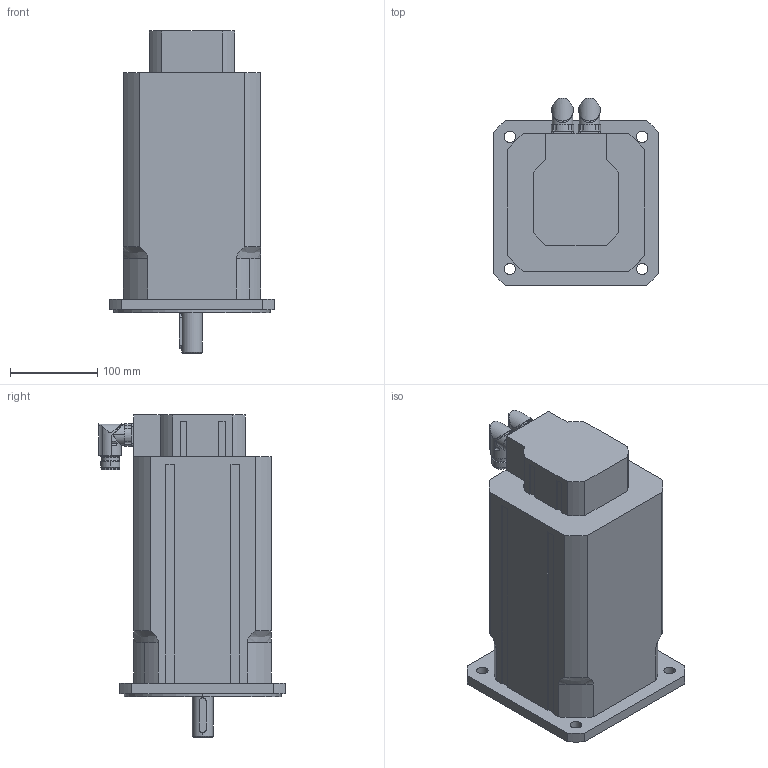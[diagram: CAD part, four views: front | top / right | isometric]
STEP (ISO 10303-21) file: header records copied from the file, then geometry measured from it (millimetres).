
FILE_DESCRIPTION(('STEP AP203'),'2;1');
FILE_NAME('MT6-2900_X.stp','2006-08-28T20:58:33',(''),(''),'2005.2.102','THINKDESIGN','');
FILE_SCHEMA(('CONFIG_CONTROL_DESIGN'));
Length unit declared in the file: millimetre
Bounding box: 190 x 214.5 x 370 mm (x, y, z)
Volume: 7328490.1 mm3; surface area: 285697.8 mm2
Topology: 3 solids, 3 shells, 258 faces, 685 edges, 443 vertices
Faces by surface type: cylinder 112, plane 108, bspline 38
Full cylindrical faces by diameter (mm): 20 x2
Entity records: 9380 total; most frequent: CARTESIAN_POINT 2860, ORIENTED_EDGE 1366, DIRECTION 1343, EDGE_CURVE 683, AXIS2_PLACEMENT_3D 500, VERTEX_POINT 443, VECTOR 343, LINE 343
